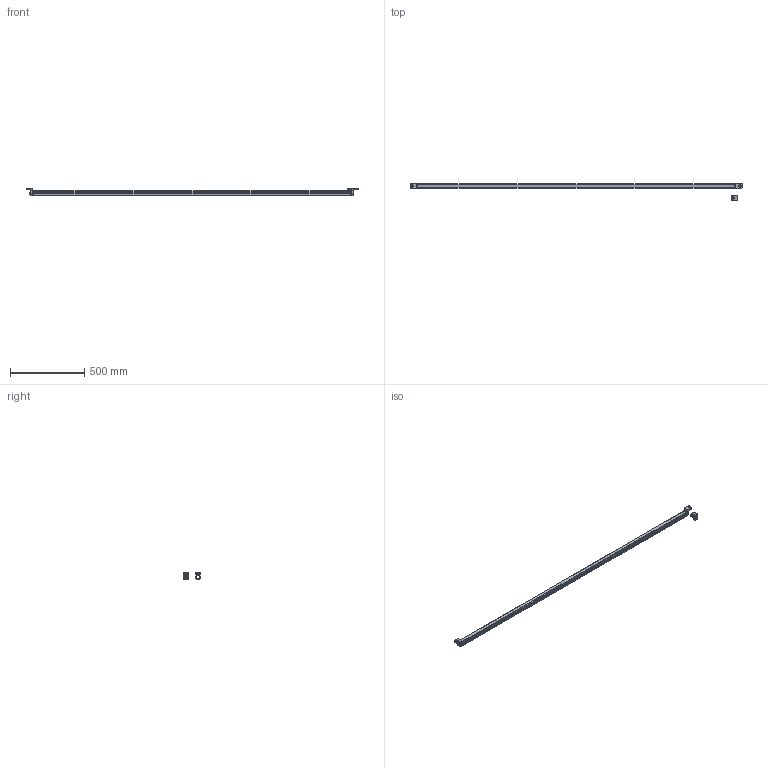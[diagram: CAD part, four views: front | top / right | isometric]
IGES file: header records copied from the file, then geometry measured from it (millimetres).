
Global section: file name: M:\acadjob\SOLID-2\DXF-IGES-Geräte-Daten für Kunden\IGES\Solid_2100.igs; native system: AutoCAD-15.05s (LMS Tech) (Microsoft Windows NT Version 5.1 (x86)); preprocessor: Autodesk IGES Translator R2000i (Jul 31 2000) from Autodesk, Inc.; date: 20070306.152056; units: millimetre
Bounding box: 2239.97 x 115.8 x 51.28 mm (x, y, z)
Surface area: 430118.2 mm2 (no closed solid volume)
Topology: 0 solids, 0 shells, 230 faces, 5800 edges, 5800 vertices
Faces by surface type: bspline 230
